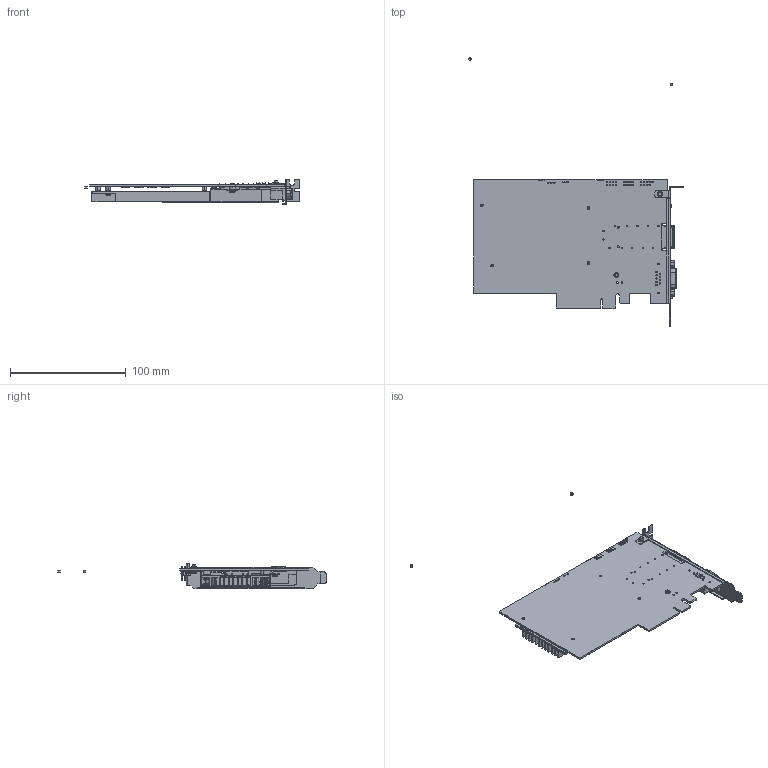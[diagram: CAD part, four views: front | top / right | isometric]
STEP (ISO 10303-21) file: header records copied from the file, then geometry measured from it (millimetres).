
FILE_DESCRIPTION((''),'2;1');
FILE_NAME('MV-20338REV10-082410-2022082420_ASM','2023-06-20T11:39:17',('qinyangfan'),(''),'CREO PARAMETRIC BY PTC INC, 2020044','CREO PARAMETRIC BY PTC INC, 2020044','');
FILE_SCHEMA(('CONFIG_CONTROL_DESIGN'));
Products named in the file (13): MV-20338REV10-082410-2022082420; 1055; 101105133; 101305301; 101300621; 101300057; 911300016_ASM; 100600534; 910600627_ASM; 101302479; 100200004; HOLE80CIRNPT; MV-20338REV10-082410-2022082420_ASM
Assembly tree (36 placements, depth 3):
  MV-20338REV10-082410-2022082420_ASM
    MV-20338REV10-082410-2022082420
    1055
    101105133  x8
    101305301
    911300016_ASM
      101300621
      101300057
    100600534
    910600627_ASM  x16
    101302479
    100200004
    HOLE80CIRNPT  x3
Bounding box: 185.18 x 231.45 x 21.59 mm (x, y, z)
Volume: 69118.9 mm3; surface area: 106637.2 mm2
Topology: 19 solids, 34 shells, 4492 faces, 12725 edges, 8201 vertices
Faces by surface type: plane 2504, cylinder 1667, cone 147, torus 66, sphere 52, bspline 46, extrusion 10
Entity records: 150509 total; most frequent: CARTESIAN_POINT 32248, ORIENTED_EDGE 25104, DIRECTION 24456, EDGE_CURVE 12579, VECTOR 8240, LINE 8230, VERTEX_POINT 8137, AXIS2_PLACEMENT_3D 8108
